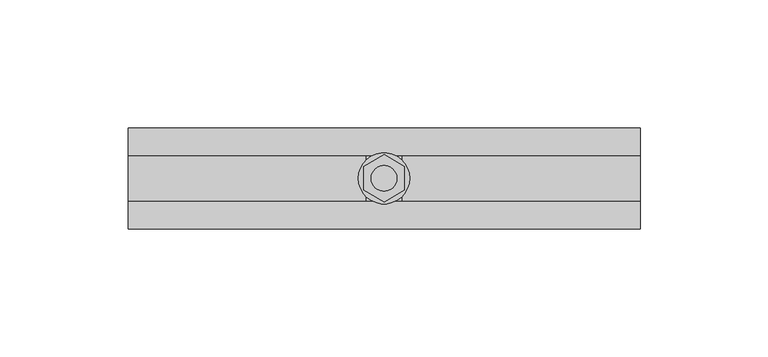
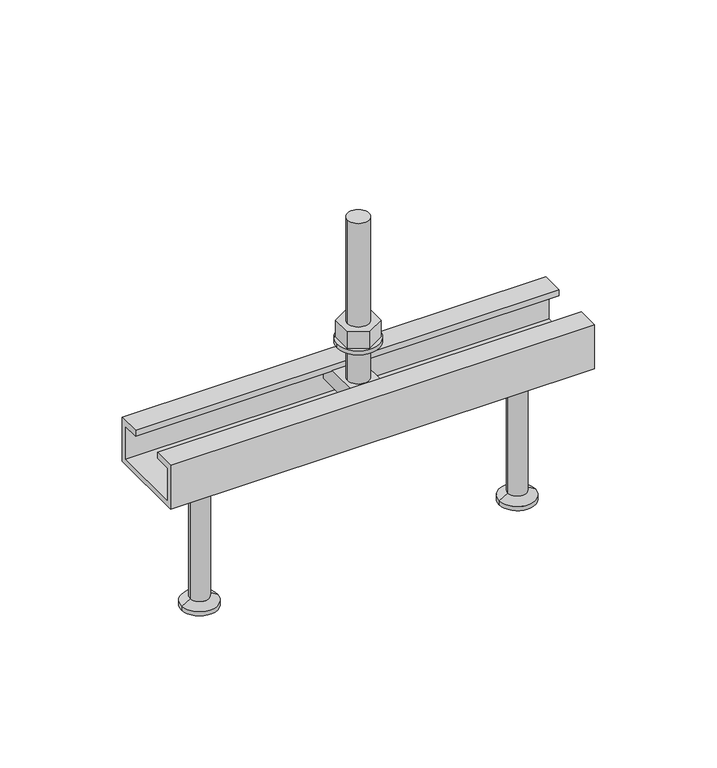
"""IFC4 building model written with IfcOpenShell, lengths in millimetres: fastener geometry, JTA-W JORDAHL® AnchorChannels : JTA-W L=200 mm."""

import ifcopenshell
import ifcopenshell.guid

model = None  # the IFC model being written
_history = None  # IfcOwnerHistory: only IFC2X3 demands one
_inside = {}  # id of a spatial element -> (the spatial element, [elements in it])
_under = {}  # id of a project, library or spatial element -> (it, [spatial elements below it])
_declared = {}  # id of a project -> (the project, [libraries it declares])
_typed = {}  # id of a type object -> (the type object, [elements of that type])
_made_of = {}  # id of a material, layer set ... -> (it, [elements and type objects made of it])


def new_model(schema):
    """Start an empty IFC model of exactly this schema.

    Asked for "IFC4X3", IfcOpenShell would pick the latest addendum, in which some entities
    have other attributes; the version numbers below select the first issue.
    IFC2X3 requires an IfcOwnerHistory on every rooted entity: one is made here for all.
    """
    global model, _history
    if schema == "IFC4X3":
        model = ifcopenshell.file(schema_version=(4, 3, 0, 0))
    else:
        model = ifcopenshell.file(schema=schema)
    _inside.clear()
    _under.clear()
    _declared.clear()
    _typed.clear()
    _made_of.clear()
    _history = None
    if model.schema == "IFC2X3":
        org = make("IfcOrganization", Name="unknown")
        user = make(
            "IfcPersonAndOrganization",
            ThePerson=make("IfcPerson", FamilyName="unknown"),
            TheOrganization=org,
        )
        app = make(
            "IfcApplication",
            ApplicationDeveloper=org,
            Version="unknown",
            ApplicationFullName="unknown",
            ApplicationIdentifier="unknown",
        )
        _history = make(
            "IfcOwnerHistory",
            OwningUser=user,
            OwningApplication=app,
            ChangeAction="ADDED",
            CreationDate=0,
        )
    return model


def make(cls, **values):
    """One entity of the class cls with the attributes given. An attribute that is None is left unset."""
    return model.create_entity(
        cls, **{name: value for name, value in values.items() if value is not None}
    )


def rooted(cls, **values):
    """An entity with a GlobalId (a new one), such as an element, a storey or a relation."""
    return make(cls, GlobalId=ifcopenshell.guid.new(), OwnerHistory=_history, **values)


def si_unit(unit_type, name, prefix=None):
    """IfcSIUnit, for example si_unit("LENGTHUNIT", "METRE", prefix="MILLI")."""
    return make("IfcSIUnit", UnitType=unit_type, Prefix=prefix, Name=name)


def assignment(units):
    """IfcUnitAssignment: the units of a project."""
    return None if units is None else make("IfcUnitAssignment", Units=units)


def point(xyz):
    """IfcCartesianPoint."""
    return None if xyz is None else make("IfcCartesianPoint", Coordinates=xyz)


def direction(xyz):
    """IfcDirection."""
    return None if xyz is None else make("IfcDirection", DirectionRatios=xyz)


def frame(location, z_axis=None, x_axis=None):
    """IfcAxis2Placement3D, a coordinate frame: its origin and axes. An axis left out is left unset."""
    return make(
        "IfcAxis2Placement3D",
        Location=point(location),
        Axis=direction(z_axis),
        RefDirection=direction(x_axis),
    )


def frame_2d(location, x_axis=None):
    """IfcAxis2Placement2D, a coordinate frame in the plane: its origin and x axis."""
    return make(
        "IfcAxis2Placement2D", Location=point(location), RefDirection=direction(x_axis)
    )


def origin():
    """The frame at (0, 0, 0) with its axes left unset."""
    return frame((0.0, 0.0, 0.0))


def place(relative_to, where):
    """IfcLocalPlacement: puts the frame where relative to a parent placement (None: the world)."""
    return make(
        "IfcLocalPlacement", PlacementRelTo=relative_to, RelativePlacement=where
    )


def context(
    kind, dimensions, precision=None, world=None, true_north=None, identifier=None
):
    """IfcGeometricRepresentationContext, for example the 3D "Model" context."""
    return make(
        "IfcGeometricRepresentationContext",
        ContextIdentifier=identifier,
        ContextType=kind,
        CoordinateSpaceDimension=dimensions,
        Precision=precision,
        WorldCoordinateSystem=world,
        TrueNorth=true_north,
    )


def project(units=None, contexts=None):
    """IfcProject with its units and contexts."""
    return rooted(
        "IfcProject",
        Name="project",
        RepresentationContexts=contexts,
        UnitsInContext=assignment(units),
    )


def spatial(cls, under=None, at=None, **own):
    """A site, building, storey or space (cls), placed at a placement, below another one or the project."""
    s = rooted(cls, ObjectPlacement=at, **own)
    if under is not None:
        _under.setdefault(under.id(), (under, []))[1].append(s)
    return s


def polyline(points):
    """IfcPolyline through the points."""
    return make("IfcPolyline", Points=[point(p) for p in points])


def circle_curve(where, radius):
    """IfcCircle in the frame where."""
    return make("IfcCircle", Position=where, Radius=radius)


def trimmed(basis, trim1, trim2, sense, master):
    """IfcTrimmedCurve: the piece of a basis curve between two trims."""
    return make(
        "IfcTrimmedCurve",
        BasisCurve=basis,
        Trim1=trim1,
        Trim2=trim2,
        SenseAgreement=sense,
        MasterRepresentation=master,
    )


def segment(curve, same_sense, transition):
    """IfcCompositeCurveSegment."""
    return make(
        "IfcCompositeCurveSegment",
        Transition=transition,
        SameSense=same_sense,
        ParentCurve=curve,
    )


def composite_curve(segments, self_intersect=None):
    """IfcCompositeCurve: segments joined end to end."""
    return make("IfcCompositeCurve", Segments=segments, SelfIntersect=self_intersect)


def outline(outer, holes=None, kind="AREA"):
    """IfcArbitraryClosedProfileDef: a profile drawn as a closed curve; with holes, ...WithVoids."""
    if holes is None:
        return make("IfcArbitraryClosedProfileDef", ProfileType=kind, OuterCurve=outer)
    return make(
        "IfcArbitraryProfileDefWithVoids",
        ProfileType=kind,
        OuterCurve=outer,
        InnerCurves=holes,
    )


def extrude(swept, where, along, depth):
    """IfcExtrudedAreaSolid: the profile swept, set in the frame where, extruded along a direction by depth."""
    return make(
        "IfcExtrudedAreaSolid",
        SweptArea=swept,
        Position=where,
        ExtrudedDirection=direction(along),
        Depth=depth,
    )


def shape(context_of_items, identifier, shape_type, items):
    """IfcShapeRepresentation: the items that make up one representation, for example the "Body"."""
    return make(
        "IfcShapeRepresentation",
        ContextOfItems=context_of_items,
        RepresentationIdentifier=identifier,
        RepresentationType=shape_type,
        Items=items,
    )


def source(mapping_origin, context_of_items, identifier, shape_type, items):
    """IfcRepresentationMap: a shape defined once, which mapped items show again and again."""
    return make(
        "IfcRepresentationMap",
        MappingOrigin=mapping_origin,
        MappedRepresentation=shape(context_of_items, identifier, shape_type, items),
    )


def transform(
    local_origin,
    x_axis=None,
    y_axis=None,
    z_axis=None,
    scale=None,
    scale2=None,
    scale3=None,
    uniform=True,
):
    """IfcCartesianTransformationOperator3D, or its non-uniform kind. x_axis, y_axis, z_axis: its Axis1, 2, 3."""
    if uniform:
        return make(
            "IfcCartesianTransformationOperator3D",
            Axis1=direction(x_axis),
            Axis2=direction(y_axis),
            LocalOrigin=point(local_origin),
            Scale=scale,
            Axis3=direction(z_axis),
        )
    return make(
        "IfcCartesianTransformationOperator3DnonUniform",
        Axis1=direction(x_axis),
        Axis2=direction(y_axis),
        LocalOrigin=point(local_origin),
        Scale=scale,
        Axis3=direction(z_axis),
        Scale2=scale2,
        Scale3=scale3,
    )


def mapped(mapping_source, mapping_target):
    """IfcMappedItem: shows the shape of a source again, moved by a transform."""
    return make(
        "IfcMappedItem", MappingSource=mapping_source, MappingTarget=mapping_target
    )


def made_of(thing, what):
    """Note that an element or type object is made of a material, layer set ...; save() writes the relation."""
    if what is not None:
        _made_of.setdefault(what.id(), (what, []))[1].append(thing)
    return thing


def element(
    cls,
    number,
    at=None,
    inside=None,
    cuts=None,
    type_object=None,
    material=None,
    context=None,
    identifier="Body",
    shape_type=None,
    held_by="IfcProductDefinitionShape",
    body=None,
    shapes=None,
    **own,
):
    """One element of the class cls, such as IfcWall. Its Tag is "e" and its number.

    at: its placement. inside: the storey or other place that contains it. cuts: it is an
    opening in that element (IfcRelVoidsElement). A single representation is given by context,
    identifier, shape_type and body (its items); several are given by shapes. held_by: the class
    of the entity that holds the representations. save() writes the other relations.
    """
    e = rooted(cls, Tag="e%d" % number, ObjectPlacement=at, **own)
    if body is not None:
        shapes = [shape(context, identifier, shape_type, body)]
    if shapes is not None:
        e.Representation = make(held_by, Representations=shapes)
    if inside is not None:
        _inside.setdefault(inside.id(), (inside, []))[1].append(e)
    if cuts is not None:
        rooted(
            "IfcRelVoidsElement", RelatingBuildingElement=cuts, RelatedOpeningElement=e
        )
    if type_object is not None:
        _typed.setdefault(type_object.id(), (type_object, []))[1].append(e)
    return made_of(e, material)


def aggregate(whole, parts):
    """IfcRelAggregates: a whole, such as a stair, and the parts it consists of."""
    return rooted("IfcRelAggregates", RelatingObject=whole, RelatedObjects=parts)


def save(model, path):
    """Write the relations noted so far, then the file.

    IfcRelAggregates (storeys below a building ...), IfcRelContainedInSpatialStructure (elements
    in a storey), IfcRelDefinesByType, IfcRelAssociatesMaterial and IfcRelDeclares: one each for
    every whole, place, type object, material and project.
    """
    for whole, parts in _under.values():
        aggregate(whole, parts)
    for where, things in _inside.values():
        rooted(
            "IfcRelContainedInSpatialStructure",
            RelatedElements=things,
            RelatingStructure=where,
        )
    for kind, things in _typed.values():
        rooted("IfcRelDefinesByType", RelatedObjects=things, RelatingType=kind)
    for what, things in _made_of.values():
        rooted("IfcRelAssociatesMaterial", RelatedObjects=things, RelatingMaterial=what)
    for by, libraries in _declared.values():
        rooted("IfcRelDeclares", RelatingContext=by, RelatedDefinitions=libraries)
    model.write(path)


def plane_surface(at):
    """IfcPlane: the flat surface through the origin of the frame at, square to its z axis."""
    return make("IfcPlane", Position=at)


def cylinder_surface(at, radius):
    """IfcCylindricalSurface: all points at the distance radius from the z axis of the frame at."""
    return make("IfcCylindricalSurface", Position=at, Radius=radius)


def revolved_surface(curve, axis_point, axis_direction):
    """IfcSurfaceOfRevolution: the curve turned about the line through axis_point along axis_direction."""
    return make(
        "IfcSurfaceOfRevolution",
        SweptCurve=make("IfcArbitraryOpenProfileDef", ProfileType="CURVE", Curve=curve),
        AxisPosition=make("IfcAxis1Placement", Location=point(axis_point), Axis=direction(axis_direction)),
    )


def advanced_brep(points, edges, surfaces, faces):
    """IfcAdvancedBrep: a solid bounded by faces that lie on surfaces and meet in shared edges.

    An edge is (start, end): straight between two places in points (the first is 0);
    or (start, end, curve); or (start, end, curve, False) where it runs against its curve.
    A face is (place in surfaces, loops), or (place, loops, False) where it looks against
    its surface's normal. A loop lists edges by number (the first is 1), with a minus sign
    where the edge is run from its end to its start. The first loop is the outer one.
    """
    corners = [point(p) for p in points]
    vertices = [make("IfcVertexPoint", VertexGeometry=c) for c in corners]
    made = []
    for start, end, *more in edges:
        made.append(
            make(
                "IfcEdgeCurve",
                EdgeStart=vertices[start],
                EdgeEnd=vertices[end],
                EdgeGeometry=more[0] if more else make("IfcPolyline", Points=[corners[start], corners[end]]),
                SameSense=more[1] if len(more) > 1 else True,
            )
        )
    hull = []
    for where, loops, *sense in faces:
        bounds = []
        for j, loop in enumerate(loops):
            ring = [make("IfcOrientedEdge", EdgeElement=made[abs(k) - 1], Orientation=k > 0) for k in loop]
            bounds.append(
                make(
                    "IfcFaceOuterBound" if j == 0 else "IfcFaceBound",
                    Bound=make("IfcEdgeLoop", EdgeList=ring),
                    Orientation=True,
                )
            )
        hull.append(make("IfcAdvancedFace", Bounds=bounds, FaceSurface=surfaces[where], SameSense=sense[0] if sense else True))
    return make("IfcAdvancedBrep", Outer=make("IfcClosedShell", CfsFaces=hull))


def fastener_4e789cc8(model_context):
    return source(origin(), model_context, "Body", "SolidModel", [
        extrude(outline(polyline([(100.0, 9.2376043), (108.0, 4.6188022), (108.0, -4.6188022), (100.0, -9.2376043), (92.0, -4.6188022), (92.0, 4.6188022), (100.0, 9.2376043)]), holes=[composite_curve([segment(trimmed(circle_curve(frame_2d((100.0, 0.0)), 5.0), [point((95.0, 0.0))], [point((105.0, 0.0))], True, "CARTESIAN"), True, "CONTINUOUS"), segment(trimmed(circle_curve(frame_2d((100.0, 0.0)), 5.0), [point((105.0, 0.0))], [point((95.0, 0.0))], True, "CARTESIAN"), True, "CONTINUOUS")], self_intersect=False)]), frame((0.0, 0.0, 17.0), z_axis=(0.0, 0.0, 1.0), x_axis=(1.0, 0.0, 0.0)), (0.0, 0.0, 1.0), 8.4),
        extrude(outline(composite_curve([segment(trimmed(circle_curve(frame_2d((100.0, 0.0)), 10.0), [point((90.0, 0.0))], [point((110.0, 0.0))], False, "CARTESIAN"), True, "CONTINUOUS"), segment(trimmed(circle_curve(frame_2d((100.0, 0.0)), 10.0), [point((110.0, 0.0))], [point((90.0, 0.0))], False, "CARTESIAN"), True, "CONTINUOUS")], self_intersect=False), holes=[composite_curve([segment(trimmed(circle_curve(frame_2d((100.0, 0.0)), 5.25), [point((94.75, 0.0))], [point((105.25, 0.0))], True, "CARTESIAN"), True, "CONTINUOUS"), segment(trimmed(circle_curve(frame_2d((100.0, 0.0)), 5.25), [point((105.25, 0.0))], [point((94.75, 0.0))], True, "CARTESIAN"), True, "CONTINUOUS")], self_intersect=False)]), frame((0.0, 0.0, 15.0), z_axis=(0.0, 0.0, 1.0), x_axis=(1.0, 0.0, 0.0)), (0.0, 0.0, 1.0), 2.0),
        advanced_brep(
        [(107.0, 16.25, -3.0), (107.0, -16.25, -3.0), (107.0, -16.25, -11.0), (107.0, 16.25, -11.0), (93.0, 16.25, -3.0), (93.0, 16.25, -11.0), (93.0, -16.25, -11.0), (93.0, -16.25, -3.0), (105.0, 0.0, -3.0), (95.0, 0.0, -3.0), (95.0, 0.0, 77.0), (105.0, 0.0, 77.0)],
        [
            (0, 1),
            (1, 2),
            (2, 3),
            (3, 0),
            (4, 5),
            (5, 6),
            (6, 7),
            (7, 4),
            (0, 4),
            (7, 1),
            (8, 9, circle_curve(frame((100.0, 0.0, -3.0), z_axis=(0.0, 0.0, -1.0), x_axis=(1.0, 0.0, 0.0)), 5.0)),
            (9, 8, circle_curve(frame((100.0, 0.0, -3.0), z_axis=(0.0, 0.0, -1.0), x_axis=(1.0, 0.0, 0.0)), 5.0)),
            (6, 2),
            (5, 3),
            (10, 11, circle_curve(frame((100.0, 0.0, 77.0), z_axis=(0.0, 0.0, 1.0), x_axis=(1.0, 0.0, 0.0)), 5.0)),
            (11, 10, circle_curve(frame((100.0, 0.0, 77.0), z_axis=(0.0, 0.0, 1.0), x_axis=(1.0, 0.0, 0.0)), 5.0)),
            (10, 9),
            (8, 11),
        ],
        [
            plane_surface(frame((107.0, -16.25, -3.0), z_axis=(1.0, 0.0, 0.0), x_axis=(0.0, -1.0, 0.0))),
            plane_surface(frame((93.0, -16.25, -3.0), z_axis=(-1.0, 0.0, 0.0), x_axis=(0.0, 1.0, 0.0))),
            plane_surface(frame((107.0, 16.25, -3.0), z_axis=(0.0, 0.0, 1.0), x_axis=(-1.0, 0.0, 0.0))),
            plane_surface(frame((107.0, -16.25, -3.0), z_axis=(0.0, -1.0, 0.0), x_axis=(-1.0, 0.0, 0.0))),
            plane_surface(frame((107.0, -16.25, -11.0), z_axis=(0.0, 0.0, -1.0), x_axis=(-1.0, 0.0, 0.0))),
            plane_surface(frame((107.0, 16.25, -11.0), z_axis=(0.0, 1.0, 0.0), x_axis=(-1.0, 0.0, 0.0))),
            plane_surface(frame((105.0, 0.0, 77.0), z_axis=(0.0, 0.0, 1.0), x_axis=(0.0, 1.0, 0.0))),
            cylinder_surface(frame((100.0, 0.0, -3.0), z_axis=(0.0, 0.0, 1.0), x_axis=(1.0, 0.0, 0.0)), 5.0),
        ],
        [
            (0, [[1, 2, 3, 4]]),
            (1, [[5, 6, 7, 8]]),
            (2, [[-1, 9, -8, 10], [11, 12]]),
            (3, [[-2, -10, -7, 13]]),
            (4, [[-3, -13, -6, 14]]),
            (5, [[-4, -14, -5, -9]]),
            (6, [[15, 16]]),
            (7, [[-15, 17, -11, 18]]),
            (7, [[-16, -18, -12, -17]]),
        ],
    ),
        advanced_brep(
        [(175.0, 0.0, -22.0), (188.5, 0.0, -22.0), (161.5, 0.0, -22.0), (166.5, 0.0, -90.0), (183.5, 0.0, -90.0), (175.0, 0.0, -90.0), (166.5, 0.0, -88.0), (183.5, 0.0, -88.0), (170.5, 0.0, -85.6905989), (179.5, 0.0, -85.6905989), (170.5, 0.0, -24.5), (179.5, 0.0, -24.5)],
        [
            (0, 1),
            (1, 2, circle_curve(frame((175.0, 0.0, -22.0), z_axis=(0.0, 0.0, 1.0), x_axis=(1.0, 0.0, 0.0)), 13.5)),
            (2, 0),
            (2, 1, circle_curve(frame((175.0, 0.0, -22.0), z_axis=(0.0, 0.0, 1.0), x_axis=(1.0, 0.0, 0.0)), 13.5)),
            (3, 4, circle_curve(frame((175.0, 0.0, -90.0), z_axis=(0.0, 0.0, -1.0), x_axis=(1.0, 0.0, 0.0)), 8.5)),
            (4, 5),
            (5, 3),
            (4, 3, circle_curve(frame((175.0, 0.0, -90.0), z_axis=(0.0, 0.0, -1.0), x_axis=(1.0, 0.0, 0.0)), 8.5)),
            (6, 7, circle_curve(frame((175.0, 0.0, -88.0), z_axis=(0.0, 0.0, -1.0), x_axis=(1.0, 0.0, 0.0)), 8.5)),
            (7, 4),
            (3, 6),
            (7, 6, circle_curve(frame((175.0, 0.0, -88.0), z_axis=(0.0, 0.0, -1.0), x_axis=(1.0, 0.0, 0.0)), 8.5)),
            (8, 9, circle_curve(frame((175.0, 0.0, -85.6905989), z_axis=(0.0, 0.0, -1.0), x_axis=(1.0, 0.0, 0.0)), 4.5)),
            (9, 7),
            (6, 8),
            (9, 8, circle_curve(frame((175.0, 0.0, -85.6905989), z_axis=(0.0, 0.0, -1.0), x_axis=(1.0, 0.0, 0.0)), 4.5)),
            (10, 11, circle_curve(frame((175.0, 0.0, -24.5), z_axis=(0.0, 0.0, -1.0), x_axis=(1.0, 0.0, 0.0)), 4.5)),
            (11, 9),
            (8, 10),
            (11, 10, circle_curve(frame((175.0, 0.0, -24.5), z_axis=(0.0, 0.0, -1.0), x_axis=(1.0, 0.0, 0.0)), 4.5)),
            (1, 11),
            (10, 2),
        ],
        [
            plane_surface(frame((175.0, 0.0, -22.0), z_axis=(0.0, 0.0, 1.0), x_axis=(1.0, 0.0, 0.0))),
            plane_surface(frame((175.0, 0.0, -90.0), z_axis=(0.0, 0.0, -1.0), x_axis=(1.0, 0.0, 0.0))),
            cylinder_surface(frame((175.0, 0.0, 2282.3150031), z_axis=(0.0, 0.0, 1.0), x_axis=(1.0, 0.0, 0.0)), 8.5),
            revolved_surface(polyline([(183.5, 0.0, -88.0), (179.5, 0.0, -85.6905989)]), (175.0, 0.0, 2282.3150031), (0.0, 0.0, 1.0)),
            cylinder_surface(frame((175.0, 0.0, 2282.3150031), z_axis=(0.0, 0.0, 1.0), x_axis=(1.0, 0.0, 0.0)), 4.5),
            revolved_surface(polyline([(179.5, 0.0, -24.5), (188.5, 0.0, -22.0)]), (175.0, 0.0, 2282.3150031), (0.0, 0.0, 1.0)),
        ],
        [
            (0, [[1, 2, 3]]),
            (0, [[-3, 4, -1]]),
            (1, [[5, 6, 7]]),
            (1, [[8, -7, -6]]),
            (2, [[9, 10, -5, 11]]),
            (2, [[12, -11, -8, -10]]),
            (3, [[13, 14, -9, 15]]),
            (3, [[16, -15, -12, -14]]),
            (4, [[17, 18, -13, 19]]),
            (4, [[20, -19, -16, -18]]),
            (5, [[-2, 21, -17, 22]]),
            (5, [[-4, -22, -20, -21]]),
        ],
    ),
        advanced_brep(
        [(25.0, 0.0, -22.0), (38.5, 0.0, -22.0), (11.5, 0.0, -22.0), (16.5, 0.0, -90.0), (33.5, 0.0, -90.0), (25.0, 0.0, -90.0), (16.5, 0.0, -88.0), (33.5, 0.0, -88.0), (20.5, 0.0, -85.6905989), (29.5, 0.0, -85.6905989), (20.5, 0.0, -24.5), (29.5, 0.0, -24.5)],
        [
            (0, 1),
            (1, 2, circle_curve(frame((25.0, 0.0, -22.0), z_axis=(0.0, 0.0, 1.0), x_axis=(1.0, 0.0, 0.0)), 13.5)),
            (2, 0),
            (2, 1, circle_curve(frame((25.0, 0.0, -22.0), z_axis=(0.0, 0.0, 1.0), x_axis=(1.0, 0.0, 0.0)), 13.5)),
            (3, 4, circle_curve(frame((25.0, 0.0, -90.0), z_axis=(0.0, 0.0, -1.0), x_axis=(1.0, 0.0, 0.0)), 8.5)),
            (4, 5),
            (5, 3),
            (4, 3, circle_curve(frame((25.0, 0.0, -90.0), z_axis=(0.0, 0.0, -1.0), x_axis=(1.0, 0.0, 0.0)), 8.5)),
            (6, 7, circle_curve(frame((25.0, 0.0, -88.0), z_axis=(0.0, 0.0, -1.0), x_axis=(1.0, 0.0, 0.0)), 8.5)),
            (7, 4),
            (3, 6),
            (7, 6, circle_curve(frame((25.0, 0.0, -88.0), z_axis=(0.0, 0.0, -1.0), x_axis=(1.0, 0.0, 0.0)), 8.5)),
            (8, 9, circle_curve(frame((25.0, 0.0, -85.6905989), z_axis=(0.0, 0.0, -1.0), x_axis=(1.0, 0.0, 0.0)), 4.5)),
            (9, 7),
            (6, 8),
            (9, 8, circle_curve(frame((25.0, 0.0, -85.6905989), z_axis=(0.0, 0.0, -1.0), x_axis=(1.0, 0.0, 0.0)), 4.5)),
            (10, 11, circle_curve(frame((25.0, 0.0, -24.5), z_axis=(0.0, 0.0, -1.0), x_axis=(1.0, 0.0, 0.0)), 4.5)),
            (11, 9),
            (8, 10),
            (11, 10, circle_curve(frame((25.0, 0.0, -24.5), z_axis=(0.0, 0.0, -1.0), x_axis=(1.0, 0.0, 0.0)), 4.5)),
            (1, 11),
            (10, 2),
        ],
        [
            plane_surface(frame((25.0, 0.0, -22.0), z_axis=(0.0, 0.0, 1.0), x_axis=(1.0, 0.0, 0.0))),
            plane_surface(frame((25.0, 0.0, -90.0), z_axis=(0.0, 0.0, -1.0), x_axis=(1.0, 0.0, 0.0))),
            cylinder_surface(frame((25.0, 0.0, 2282.3150031), z_axis=(0.0, 0.0, 1.0), x_axis=(1.0, 0.0, 0.0)), 8.5),
            revolved_surface(polyline([(33.5, 0.0, -88.0), (29.5, 0.0, -85.6905989)]), (25.0, 0.0, 2282.3150031), (0.0, 0.0, 1.0)),
            cylinder_surface(frame((25.0, 0.0, 2282.3150031), z_axis=(0.0, 0.0, 1.0), x_axis=(1.0, 0.0, 0.0)), 4.5),
            revolved_surface(polyline([(29.5, 0.0, -24.5), (38.5, 0.0, -22.0)]), (25.0, 0.0, 2282.3150031), (0.0, 0.0, 1.0)),
        ],
        [
            (0, [[1, 2, 3]]),
            (0, [[-3, 4, -1]]),
            (1, [[5, 6, 7]]),
            (1, [[8, -7, -6]]),
            (2, [[9, 10, -5, 11]]),
            (2, [[12, -11, -8, -10]]),
            (3, [[13, 14, -9, 15]]),
            (3, [[16, -15, -12, -14]]),
            (4, [[17, 18, -13, 19]]),
            (4, [[20, -19, -16, -18]]),
            (5, [[-2, 21, -17, 22]]),
            (5, [[-4, -22, -20, -21]]),
        ],
    ),
        extrude(outline(polyline([(19.75, 0.0), (19.75, -22.0), (-19.75, -22.0), (-19.75, 0.0), (-9.0, 0.0), (-9.0, -3.0), (-17.25, -3.0), (-17.25, -19.5), (17.25, -19.5), (17.25, -3.0), (9.0, -3.0), (9.0, 0.0), (19.75, 0.0)])), frame((0.0, 0.0, 0.0), z_axis=(1.0, 0.0, 0.0), x_axis=(0.0, 1.0, 0.0)), (0.0, 0.0, 1.0), 200.0),
    ])


if __name__ == "__main__":
    model = new_model("IFC4")
    model_context = context("Model", 3, world=origin())
    ifc_project = project(units=[si_unit("LENGTHUNIT", "METRE", prefix="MILLI")], contexts=[model_context])
    site = spatial("IfcSite", under=ifc_project)
    building = spatial("IfcBuilding", under=site)
    placement = place(None, origin())
    fastener_shape = fastener_4e789cc8(model_context)
    element("IfcFastener", 1, ObjectType="JTA-W JORDAHL® AnchorChannels : JTA-W L=200 mm", at=placement, inside=building, context=model_context, shape_type="MappedRepresentation", body=[
        mapped(fastener_shape, transform((0.0, 0.0, 0.0), x_axis=(1.0, 0.0, 0.0), y_axis=(0.0, 1.0, 0.0), z_axis=(0.0, 0.0, 1.0))),
    ])
    save(model, "model.ifc")
